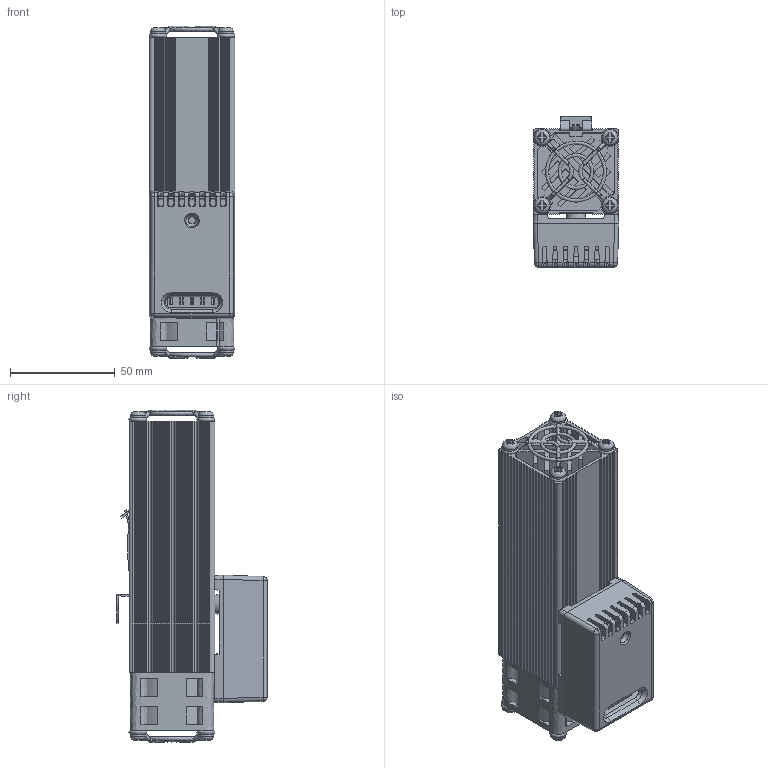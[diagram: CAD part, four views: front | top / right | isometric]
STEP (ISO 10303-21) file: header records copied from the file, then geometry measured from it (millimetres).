
FILE_DESCRIPTION(/* description */ (''),/* implementation_level */ '2;1');
FILE_NAME(/* name */ 'FMHT300',/* time_stamp */ '2023-02-24T16:46:44+01:00',/* author */ (''),/* organization */ (''),/* preprocessor_version */ 'ST-DEVELOPER v16.5',/* originating_system */ '',/* authorisation */ '');
FILE_SCHEMA (('AUTOMOTIVE_DESIGN'));
Length unit declared in the file: millimetre
Products named in the file (1): Document
Bounding box: 41.13 x 71.83 x 158.8 mm (x, y, z)
Volume: 152878.3 mm3; surface area: 125760.5 mm2
Topology: 57 solids, 57 shells, 1087 faces, 2744 edges, 1803 vertices
Faces by surface type: plane 791, bspline 296
Entity records: 40170 total; most frequent: CARTESIAN_POINT 22165, ORIENTED_EDGE 5488, EDGE_CURVE 2744, VERTEX_POINT 1802, B_SPLINE_CURVE_WITH_KNOTS 1560, EDGE_LOOP 1158, ADVANCED_FACE 1087, FACE_OUTER_BOUND 1087
